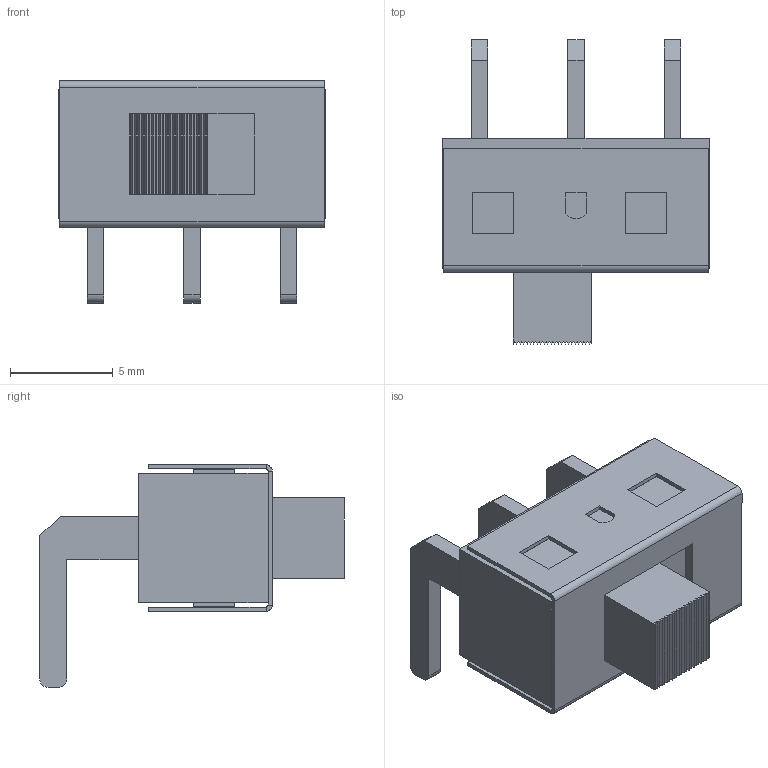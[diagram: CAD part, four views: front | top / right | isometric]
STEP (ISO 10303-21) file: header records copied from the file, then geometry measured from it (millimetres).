
FILE_DESCRIPTION (( 'STEP AP214' ), '1' );
FILE_NAME ('SW-TH_3P-P4.70_L11.1-W12.7.step', '2022-07-26T16:14:41', ( '' ), ( '' ), 'SwSTEP 2.0', 'SolidWorks 2020', '' );
FILE_SCHEMA (( 'AUTOMOTIVE_DESIGN' ));
Length unit declared in the file: millimetre
Products named in the file (1): SW-TH_3P-P4.70_L11.1-W12.7
Bounding box: 12.95 x 14.8 x 10.81 mm (x, y, z)
Volume: 650.7 mm3; surface area: 943.4 mm2
Topology: 14 solids, 14 shells, 457 faces, 1214 edges, 802 vertices
Faces by surface type: plane 332, bspline 110, cylinder 15
Entity records: 19775 total; most frequent: CARTESIAN_POINT 4656, ORIENTED_EDGE 2428, DIRECTION 1716, EDGE_CURVE 1214, LINE 960, VECTOR 960, VERTEX_POINT 802, EDGE_LOOP 498
